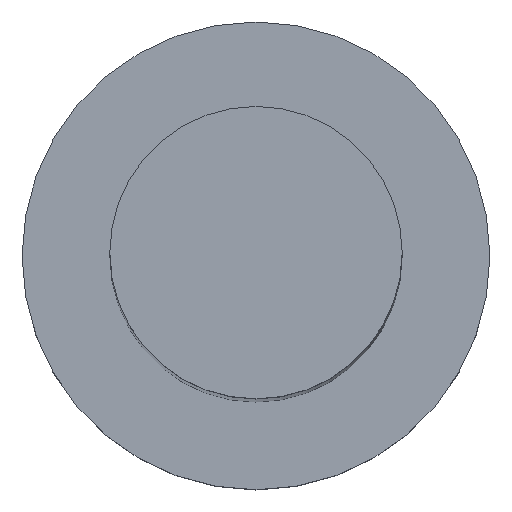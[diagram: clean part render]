
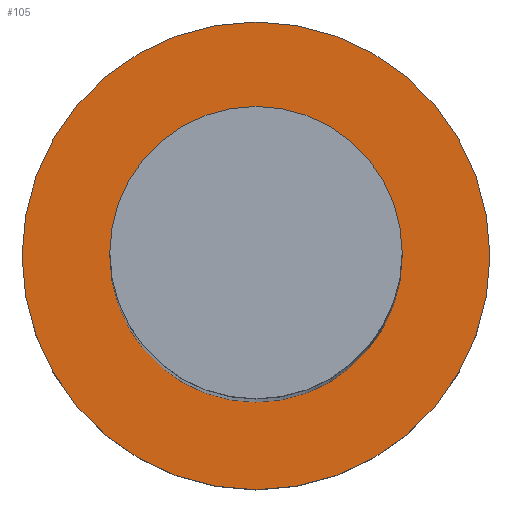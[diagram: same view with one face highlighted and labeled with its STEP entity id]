
A CAD part, top view. The second image highlights one B-rep face of the part: STEP entity #105.
In plain terms, the highlighted planar face has unit normal (0, 0, 1).
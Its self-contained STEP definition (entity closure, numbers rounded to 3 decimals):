
#21 = EDGE_CURVE('',#22,#22,#24,.T.);
#22 = VERTEX_POINT('',#23);
#23 = CARTESIAN_POINT('',(4.,0.,2.));
#24 = SURFACE_CURVE('',#25,(#30,#42),.PCURVE_S1.);
#25 = CIRCLE('',#26,4.);
#26 = AXIS2_PLACEMENT_3D('',#27,#28,#29);
#27 = CARTESIAN_POINT('',(0.,0.,2.));
#28 = DIRECTION('',(0.,0.,1.));
#29 = DIRECTION('',(1.,0.,-0.));
#30 = PCURVE('',#31,#36);
#31 = CYLINDRICAL_SURFACE('',#32,4.);
#32 = AXIS2_PLACEMENT_3D('',#33,#34,#35);
#33 = CARTESIAN_POINT('',(0.,0.,0.));
#34 = DIRECTION('',(0.,0.,1.));
#35 = DIRECTION('',(1.,0.,-0.));
#36 = DEFINITIONAL_REPRESENTATION('',(#37),#41);
#37 = LINE('',#38,#39);
#38 = CARTESIAN_POINT('',(0.,2.));
#39 = VECTOR('',#40,1.);
#40 = DIRECTION('',(1.,0.));
#41 = ( GEOMETRIC_REPRESENTATION_CONTEXT(2) 
PARAMETRIC_REPRESENTATION_CONTEXT() REPRESENTATION_CONTEXT('2D SPACE',''
  ) );
#42 = PCURVE('',#43,#48);
#43 = PLANE('',#44);
#44 = AXIS2_PLACEMENT_3D('',#45,#46,#47);
#45 = CARTESIAN_POINT('',(0.,0.,2.));
#46 = DIRECTION('',(0.,0.,1.));
#47 = DIRECTION('',(1.,0.,-0.));
#48 = DEFINITIONAL_REPRESENTATION('',(#49),#53);
#49 = CIRCLE('',#50,4.);
#50 = AXIS2_PLACEMENT_2D('',#51,#52);
#51 = CARTESIAN_POINT('',(0.,0.));
#52 = DIRECTION('',(1.,0.));
#53 = ( GEOMETRIC_REPRESENTATION_CONTEXT(2) 
PARAMETRIC_REPRESENTATION_CONTEXT() REPRESENTATION_CONTEXT('2D SPACE',''
  ) );
#105 = ADVANCED_FACE('',(#106,#109),#43,.T.);
#106 = FACE_BOUND('',#107,.T.);
#107 = EDGE_LOOP('',(#108));
#108 = ORIENTED_EDGE('',*,*,#21,.T.);
#109 = FACE_BOUND('',#110,.T.);
#110 = EDGE_LOOP('',(#111));
#111 = ORIENTED_EDGE('',*,*,#112,.F.);
#112 = EDGE_CURVE('',#113,#113,#115,.T.);
#113 = VERTEX_POINT('',#114);
#114 = CARTESIAN_POINT('',(2.5,0.,2.));
#115 = SURFACE_CURVE('',#116,(#121,#128),.PCURVE_S1.);
#116 = CIRCLE('',#117,2.5);
#117 = AXIS2_PLACEMENT_3D('',#118,#119,#120);
#118 = CARTESIAN_POINT('',(0.,0.,2.));
#119 = DIRECTION('',(0.,0.,1.));
#120 = DIRECTION('',(1.,0.,-0.));
#121 = PCURVE('',#43,#122);
#122 = DEFINITIONAL_REPRESENTATION('',(#123),#127);
#123 = CIRCLE('',#124,2.5);
#124 = AXIS2_PLACEMENT_2D('',#125,#126);
#125 = CARTESIAN_POINT('',(0.,0.));
#126 = DIRECTION('',(1.,0.));
#127 = ( GEOMETRIC_REPRESENTATION_CONTEXT(2) 
PARAMETRIC_REPRESENTATION_CONTEXT() REPRESENTATION_CONTEXT('2D SPACE',''
  ) );
#128 = PCURVE('',#129,#134);
#129 = CYLINDRICAL_SURFACE('',#130,2.5);
#130 = AXIS2_PLACEMENT_3D('',#131,#132,#133);
#131 = CARTESIAN_POINT('',(0.,0.,2.));
#132 = DIRECTION('',(0.,0.,1.));
#133 = DIRECTION('',(1.,0.,-0.));
#134 = DEFINITIONAL_REPRESENTATION('',(#135),#139);
#135 = LINE('',#136,#137);
#136 = CARTESIAN_POINT('',(0.,0.));
#137 = VECTOR('',#138,1.);
#138 = DIRECTION('',(1.,0.));
#139 = ( GEOMETRIC_REPRESENTATION_CONTEXT(2) 
PARAMETRIC_REPRESENTATION_CONTEXT() REPRESENTATION_CONTEXT('2D SPACE',''
  ) );
